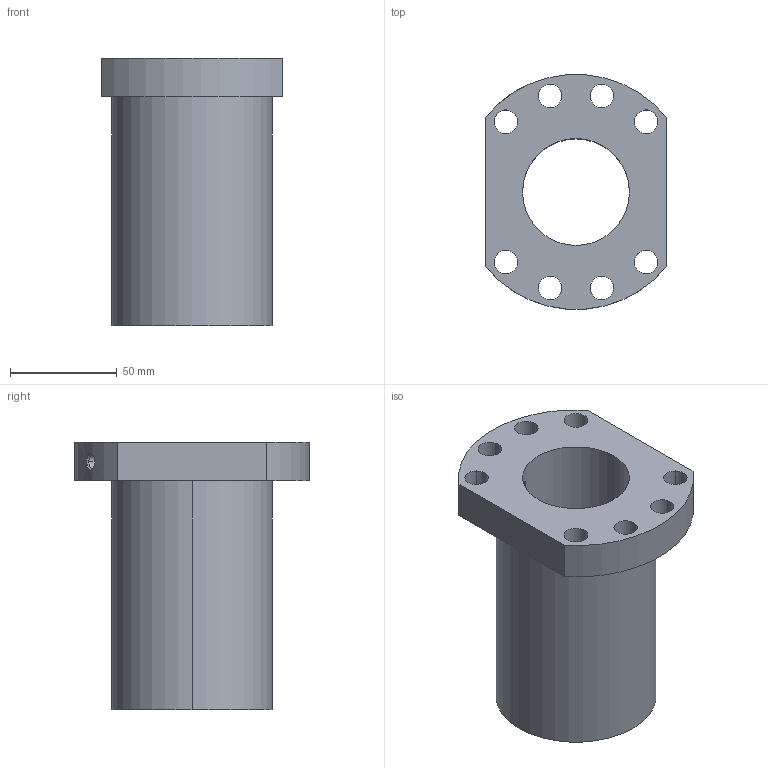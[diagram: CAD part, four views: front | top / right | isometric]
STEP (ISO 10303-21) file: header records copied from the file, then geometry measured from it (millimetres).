
FILE_DESCRIPTION(('STEP AP214'),'1');
FILE_NAME('cgr5050sfsd6_35125-.stp','2025-04-29T08:38:58',('TraceParts'),('TraceParts S.A.'),'Spatial InterOp 3D',' ',' ');
FILE_SCHEMA(('AUTOMOTIVE_DESIGN { 1 0 10303 214 1 1 1 1 }'));
Length unit declared in the file: millimetre
Products named in the file (1): cgr5050sfsd6_35125-
Bounding box: 85 x 109.65 x 125 mm (x, y, z)
Volume: 362550.8 mm3; surface area: 67452.6 mm2
Topology: 1 solids, 1 shells, 42 faces, 104 edges, 66 vertices
Faces by surface type: cylinder 30, cone 6, plane 6
Entity records: 1782 total; most frequent: CARTESIAN_POINT 345, DIRECTION 244, ORIENTED_EDGE 208, EDGE_CURVE 104, AXIS2_PLACEMENT_3D 101, VERTEX_POINT 66, EDGE_LOOP 64, CIRCLE 58
